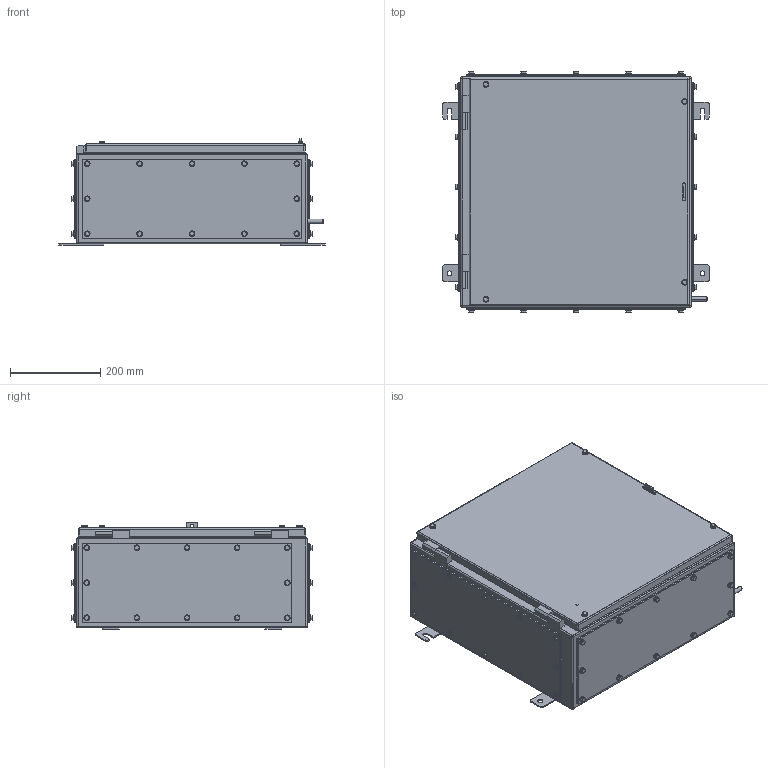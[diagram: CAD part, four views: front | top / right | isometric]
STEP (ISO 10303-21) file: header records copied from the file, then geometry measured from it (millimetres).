
FILE_DESCRIPTION (( 'STEP AP203' ), '1' );
FILE_NAME ('SX5_200_4GP.STEP', '2021-05-20T14:43:00', ( '' ), ( '' ), 'SwSTEP 2.0', 'SolidWorks 2020', '' );
FILE_SCHEMA (( 'CONFIG_CONTROL_DESIGN' ));
Length unit declared in the file: millimetre
Products named in the file (10): SX5-200 side Gasket; hex screw gradec_bsi_BS EN 24018 - M6 x 16-WN; SX5-200 Base Gland plate; plain washer form a_bsi_Bright washer BS 4320 - M6 (Form A); SX5_200_4GP; SX5-200 Base Gasket; SX5_200_4GP Body; hex screw gradec_bsi_BS EN 24018 - M6 x 20-WN; SX5-200 side Gland plate; SX5 Door
Assembly tree (114 placements, depth 2):
  SX5_200_4GP
    SX5 Door
    hex screw gradec_bsi_BS EN 24018 - M6 x 16-WN  x48
    hex screw gradec_bsi_BS EN 24018 - M6 x 20-WN  x4
    plain washer form a_bsi_Bright washer BS 4320 - M6 (Form A)  x52
    SX5_200_4GP Body
    SX5-200 Base Gland plate  x2
    SX5-200 Base Gasket  x2
    SX5-200 side Gasket  x2
    SX5-200 side Gland plate  x2
Bounding box: 590 x 533.95 x 236 mm (x, y, z)
Volume: 3039745.2 mm3; surface area: 2594536.2 mm2
Topology: 114 solids, 114 shells, 2654 faces, 5778 edges, 3496 vertices
Faces by surface type: plane 1202, cylinder 980, cone 424, sphere 40, torus 8
Entity records: 29118 total; most frequent: DIRECTION 4884, CARTESIAN_POINT 4295, ORIENTED_EDGE 3908, AXIS2_PLACEMENT_3D 1973, EDGE_CURVE 1954, VERTEX_POINT 1240, EDGE_LOOP 1122, CIRCLE 992
